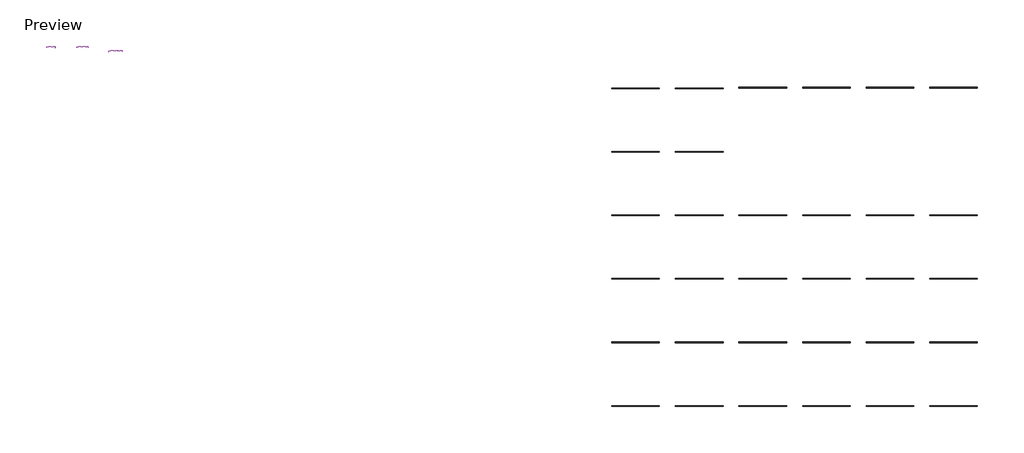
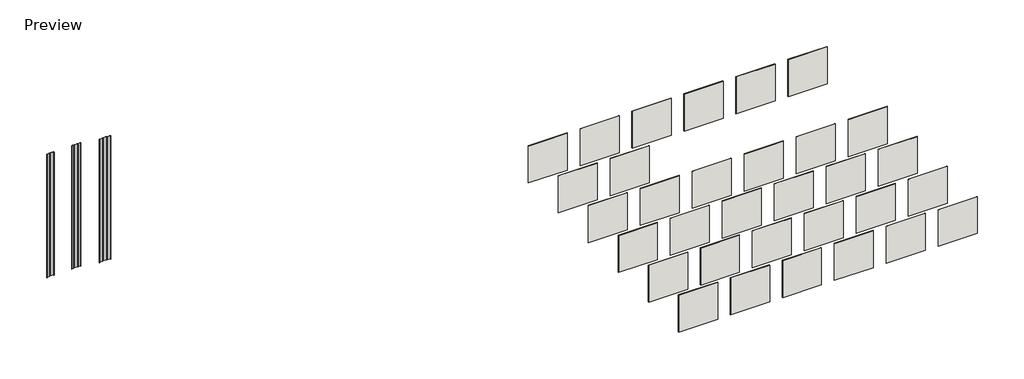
# One storey: 32 walls, 3 proxies.
"""IFC4 building model written with IfcOpenShell, lengths in millimetres."""

from ifc_helpers import new_model, si_unit, frame, origin, origin_with_axes, place, context, project, spatial, polyline, outline, extrude, transform, mapped, element, save
from components import field_lok_flm125_flm125_7b849c24, field_lok_flm165_flm165_75423626, field_lok_flm207_flm207_3ad78b5f

model = new_model("IFC4")

# Units and contexts
model_context = context("Model", 3, world=origin())
ifc_project = project(units=[si_unit("LENGTHUNIT", "METRE", prefix="MILLI")], contexts=[model_context])

# Site, building, storey
site = spatial("IfcSite", under=ifc_project)
building = spatial("IfcBuilding", under=site)
storey = spatial("IfcBuildingStorey", under=building, Name="Preview", Elevation=0.0)

# Proxies
placement = place(None, origin())
field_lok_flm125_flm125_shape = field_lok_flm125_flm125_7b849c24(model_context)
element("IfcBuildingElementProxy", 1, Name="Field Lok FLM125 : FLM125", ObjectType="Field Lok FLM125 : FLM125", at=placement, inside=storey, context=model_context, shape_type="MappedRepresentation", body=[
    mapped(field_lok_flm125_flm125_shape, transform((-42009.9924987, 19903.0873646, 5270.216913), x_axis=(0.0, 0.0, 1.0), y_axis=(-1.0, 0.0, 0.0), z_axis=(0.0, -1.0, 0.0))),
])
field_lok_flm165_flm165_shape = field_lok_flm165_flm165_75423626(model_context)
element("IfcBuildingElementProxy", 2, Name="Field Lok FLM165 : FLM165", ObjectType="Field Lok FLM165 : FLM165", at=placement, inside=storey, context=model_context, shape_type="MappedRepresentation", body=[
    mapped(field_lok_flm165_flm165_shape, transform((-40762.8993635, 19903.0873646, 5083.7483272), x_axis=(0.0, 0.0, 1.0), y_axis=(-1.0, 0.0, 0.0), z_axis=(0.0, -1.0, 0.0))),
])
field_lok_flm207_flm207_shape = field_lok_flm207_flm207_3ad78b5f(model_context)
element("IfcBuildingElementProxy", 3, Name="Field Lok FLM207 : FLM207", ObjectType="Field Lok FLM207 : FLM207", at=placement, inside=storey, context=model_context, shape_type="MappedRepresentation", body=[
    mapped(field_lok_flm207_flm207_shape, transform((-39430.3124938, 19744.2251808, 5083.7483272), x_axis=(0.0, 0.0, 1.0), y_axis=(-1.0, 0.0, 0.0), z_axis=(0.0, -1.0, 0.0))),
])

# Walls
element("IfcWall", 4, ObjectType="ATAS_Ascot White", at=placement, inside=storey, context=model_context, shape_type="SweptSolid", body=[
    extrude(outline(polyline([(-18839.3718391, 8535.7201131), (-20668.1718391, 8535.7201131), (-20668.1718391, 8559.5326131), (-18839.3718391, 8559.5326131), (-18839.3718391, 8535.7201131)])), origin_with_axes(), (0.0, 0.0, 1.0), 1828.8),
])
element("IfcWall", 5, ObjectType="ATAS_Classic Bronze", at=placement, inside=storey, context=model_context, shape_type="SweptSolid", body=[
    extrude(outline(polyline([(-16400.9718391, 8535.7201131), (-18229.7718391, 8535.7201131), (-18229.7718391, 8559.5326131), (-16400.9718391, 8559.5326131), (-16400.9718391, 8535.7201131)])), origin_with_axes(), (0.0, 0.0, 1.0), 1828.8),
])
element("IfcWall", 6, ObjectType="ATAS_Teal", at=placement, inside=storey, context=model_context, shape_type="SweptSolid", body=[
    extrude(outline(polyline([(-13962.5718391, 8535.7201131), (-15791.3718391, 8535.7201131), (-15791.3718391, 8559.5326131), (-13962.5718391, 8559.5326131), (-13962.5718391, 8535.7201131)])), origin_with_axes(), (0.0, 0.0, 1.0), 1828.8),
])
element("IfcWall", 7, ObjectType="ATAS_Boysenberry", at=placement, inside=storey, context=model_context, shape_type="SweptSolid", body=[
    extrude(outline(polyline([(-11524.1718391, 8535.7201131), (-13352.9718391, 8535.7201131), (-13352.9718391, 8559.5326131), (-11524.1718391, 8559.5326131), (-11524.1718391, 8535.7201131)])), origin_with_axes(), (0.0, 0.0, 1.0), 1828.8),
])
element("IfcWall", 8, ObjectType="ATAS_Rawhide", at=placement, inside=storey, context=model_context, shape_type="SweptSolid", body=[
    extrude(outline(polyline([(-9085.7718391, 8535.7201131), (-10914.5718391, 8535.7201131), (-10914.5718391, 8559.5326131), (-9085.7718391, 8559.5326131), (-9085.7718391, 8535.7201131)])), origin_with_axes(), (0.0, 0.0, 1.0), 1828.8),
])
element("IfcWall", 9, ObjectType="ATAS_Regal Blue", at=placement, inside=storey, context=model_context, shape_type="SweptSolid", body=[
    extrude(outline(polyline([(-6647.3718391, 8535.7201131), (-8476.1718391, 8535.7201131), (-8476.1718391, 8559.5326131), (-6647.3718391, 8559.5326131), (-6647.3718391, 8535.7201131)])), origin_with_axes(), (0.0, 0.0, 1.0), 1828.8),
])
element("IfcWall", 10, ObjectType="ATAS_Black", at=placement, inside=storey, context=model_context, shape_type="SweptSolid", body=[
    extrude(outline(polyline([(-18839.3718391, 6097.3201131), (-20668.1718391, 6097.3201131), (-20668.1718391, 6121.1326131), (-18839.3718391, 6121.1326131), (-18839.3718391, 6097.3201131)])), origin_with_axes(), (0.0, 0.0, 1.0), 1828.8),
])
element("IfcWall", 11, ObjectType="ATAS_Forest Green", at=placement, inside=storey, context=model_context, shape_type="SweptSolid", body=[
    extrude(outline(polyline([(-16400.9718391, 6097.3201131), (-18229.7718391, 6097.3201131), (-18229.7718391, 6121.1326131), (-16400.9718391, 6121.1326131), (-16400.9718391, 6097.3201131)])), origin_with_axes(), (0.0, 0.0, 1.0), 1828.8),
])
element("IfcWall", 12, ObjectType="ATAS_Chocolate Brown", at=placement, inside=storey, context=model_context, shape_type="SweptSolid", body=[
    extrude(outline(polyline([(-13962.5718391, 6097.3201131), (-15791.3718391, 6097.3201131), (-15791.3718391, 6121.1326131), (-13962.5718391, 6121.1326131), (-13962.5718391, 6097.3201131)])), origin_with_axes(), (0.0, 0.0, 1.0), 1828.8),
])
element("IfcWall", 13, ObjectType="ATAS_Sierra Tan", at=placement, inside=storey, context=model_context, shape_type="SweptSolid", body=[
    extrude(outline(polyline([(-11524.1718391, 6097.3201131), (-13352.9718391, 6097.3201131), (-13352.9718391, 6121.1326131), (-11524.1718391, 6121.1326131), (-11524.1718391, 6097.3201131)])), origin_with_axes(), (0.0, 0.0, 1.0), 1828.8),
])
element("IfcWall", 14, ObjectType="ATAS_Sandstone", at=placement, inside=storey, context=model_context, shape_type="SweptSolid", body=[
    extrude(outline(polyline([(-9085.7718391, 6097.3201131), (-10914.5718391, 6097.3201131), (-10914.5718391, 6121.1326131), (-9085.7718391, 6121.1326131), (-9085.7718391, 6097.3201131)])), origin_with_axes(), (0.0, 0.0, 1.0), 1828.8),
])
element("IfcWall", 15, ObjectType="ATAS_Rocky Grey", at=placement, inside=storey, context=model_context, shape_type="SweptSolid", body=[
    extrude(outline(polyline([(-6647.3718391, 6097.3201131), (-8476.1718391, 6097.3201131), (-8476.1718391, 6121.1326131), (-6647.3718391, 6121.1326131), (-6647.3718391, 6097.3201131)])), origin_with_axes(), (0.0, 0.0, 1.0), 1793.6354952),
])
element("IfcWall", 16, ObjectType="ATAS_Charcoal Grey", at=placement, inside=storey, context=model_context, shape_type="SweptSolid", body=[
    extrude(outline(polyline([(-18839.3718391, 10974.1201131), (-20668.1718391, 10974.1201131), (-20668.1718391, 10997.9326131), (-18839.3718391, 10997.9326131), (-18839.3718391, 10974.1201131)])), origin_with_axes(), (0.0, 0.0, 1.0), 1828.8),
])
element("IfcWall", 17, ObjectType="ATAS_Bone White", at=placement, inside=storey, context=model_context, shape_type="SweptSolid", body=[
    extrude(outline(polyline([(-16400.9718391, 10974.1201131), (-18229.7718391, 10974.1201131), (-18229.7718391, 10997.9326131), (-16400.9718391, 10997.9326131), (-16400.9718391, 10974.1201131)])), origin_with_axes(), (0.0, 0.0, 1.0), 1828.8),
])
element("IfcWall", 18, ObjectType="ATAS_Medium Bronze", at=placement, inside=storey, context=model_context, shape_type="SweptSolid", body=[
    extrude(outline(polyline([(-13962.5718391, 10974.1201131), (-15791.3718391, 10974.1201131), (-15791.3718391, 10997.9326131), (-13962.5718391, 10997.9326131), (-13962.5718391, 10974.1201131)])), origin_with_axes(), (0.0, 0.0, 1.0), 1828.8),
])
element("IfcWall", 19, ObjectType="ATAS_Hemlock Green", at=placement, inside=storey, context=model_context, shape_type="SweptSolid", body=[
    extrude(outline(polyline([(-11524.1718391, 10974.1201131), (-13352.9718391, 10974.1201131), (-13352.9718391, 10997.9326131), (-11524.1718391, 10997.9326131), (-11524.1718391, 10974.1201131)])), origin_with_axes(), (0.0, 0.0, 1.0), 1828.8),
])
element("IfcWall", 20, ObjectType="ATAS_Redwood", at=placement, inside=storey, context=model_context, shape_type="SweptSolid", body=[
    extrude(outline(polyline([(-9085.7718391, 10974.1201131), (-10914.5718391, 10974.1201131), (-10914.5718391, 10997.9326131), (-9085.7718391, 10997.9326131), (-9085.7718391, 10974.1201131)])), origin_with_axes(), (0.0, 0.0, 1.0), 1828.8),
])
element("IfcWall", 21, ObjectType="ATAS_Concord Cream", at=placement, inside=storey, context=model_context, shape_type="SweptSolid", body=[
    extrude(outline(polyline([(-6647.3718391, 10974.1201131), (-8476.1718391, 10974.1201131), (-8476.1718391, 10997.9326131), (-6647.3718391, 10997.9326131), (-6647.3718391, 10974.1201131)])), origin_with_axes(), (0.0, 0.0, 1.0), 1828.8),
])
element("IfcWall", 22, ObjectType="ATAS_Slate Blue", at=placement, inside=storey, context=model_context, shape_type="SweptSolid", body=[
    extrude(outline(polyline([(-18839.3718391, 13412.5201131), (-20668.1718391, 13412.5201131), (-20668.1718391, 13436.3326131), (-18839.3718391, 13436.3326131), (-18839.3718391, 13412.5201131)])), origin_with_axes(), (0.0, 0.0, 1.0), 1828.8),
])
element("IfcWall", 23, ObjectType="ATAS_Slate Grey", at=placement, inside=storey, context=model_context, shape_type="SweptSolid", body=[
    extrude(outline(polyline([(-16400.9718391, 13412.5201131), (-18229.7718391, 13412.5201131), (-18229.7718391, 13436.3326131), (-16400.9718391, 13436.3326131), (-16400.9718391, 13412.5201131)])), origin_with_axes(), (0.0, 0.0, 1.0), 1828.8),
])
element("IfcWall", 24, ObjectType="ATAS_Hatford Green", at=placement, inside=storey, context=model_context, shape_type="SweptSolid", body=[
    extrude(outline(polyline([(-13962.5718391, 13412.5201131), (-15791.3718391, 13412.5201131), (-15791.3718391, 13436.3326131), (-13962.5718391, 13436.3326131), (-13962.5718391, 13412.5201131)])), origin_with_axes(), (0.0, 0.0, 1.0), 1828.8),
])
element("IfcWall", 25, ObjectType="ATAS_Patina Green", at=placement, inside=storey, context=model_context, shape_type="SweptSolid", body=[
    extrude(outline(polyline([(-11524.1718391, 13412.5201131), (-13352.9718391, 13412.5201131), (-13352.9718391, 13436.3326131), (-11524.1718391, 13436.3326131), (-11524.1718391, 13412.5201131)])), frame((0.0, 0.0, -5.2424975), z_axis=(0.0, 0.0, 1.0), x_axis=(1.0, 0.0, 0.0)), (0.0, 0.0, 1.0), 1834.0424975),
])
element("IfcWall", 26, ObjectType="ATAS_Mission Red", at=placement, inside=storey, context=model_context, shape_type="SweptSolid", body=[
    extrude(outline(polyline([(-9085.7718391, 13412.5201131), (-10914.5718391, 13412.5201131), (-10914.5718391, 13436.3326131), (-9085.7718391, 13436.3326131), (-9085.7718391, 13412.5201131)])), origin_with_axes(), (0.0, 0.0, 1.0), 1828.8),
])
element("IfcWall", 27, ObjectType="ATAS_Almond", at=placement, inside=storey, context=model_context, shape_type="SweptSolid", body=[
    extrude(outline(polyline([(-6647.3718391, 13412.5201131), (-8476.1718391, 13412.5201131), (-8476.1718391, 13436.3326131), (-6647.3718391, 13436.3326131), (-6647.3718391, 13412.5201131)])), origin_with_axes(), (0.0, 0.0, 1.0), 1828.8),
])
element("IfcWall", 28, ObjectType="ATAS_Siam Blue", at=placement, inside=storey, context=model_context, shape_type="SweptSolid", body=[
    extrude(outline(polyline([(-18839.3718391, 15850.9201131), (-20668.1718391, 15850.9201131), (-20668.1718391, 15874.7326131), (-18839.3718391, 15874.7326131), (-18839.3718391, 15850.9201131)])), origin_with_axes(), (0.0, 0.0, 1.0), 1828.8),
])
element("IfcWall", 29, ObjectType="ATAS_Dove Grey", at=placement, inside=storey, context=model_context, shape_type="SweptSolid", body=[
    extrude(outline(polyline([(-16400.9718391, 15850.9201131), (-18229.7718391, 15850.9201131), (-18229.7718391, 15874.7326131), (-16400.9718391, 15874.7326131), (-16400.9718391, 15850.9201131)])), origin_with_axes(), (0.0, 0.0, 1.0), 1828.8),
])
element("IfcWall", 30, ObjectType="ATAS_Antique Patina", at=placement, inside=storey, context=model_context, shape_type="SweptSolid", body=[
    extrude(outline(polyline([(-13962.5718391, 18313.1326131), (-15791.3718391, 18313.1326131), (-15791.3718391, 18336.9451131), (-13962.5718391, 18336.9451131), (-13962.5718391, 18313.1326131)])), origin_with_axes(), (0.0, 0.0, 1.0), 1828.8),
])
element("IfcWall", 31, ObjectType="ATAS_Champagne", at=placement, inside=storey, context=model_context, shape_type="SweptSolid", body=[
    extrude(outline(polyline([(-11524.1718391, 18313.1326131), (-13352.9718391, 18313.1326131), (-13352.9718391, 18336.9451131), (-11524.1718391, 18336.9451131), (-11524.1718391, 18313.1326131)])), origin_with_axes(), (0.0, 0.0, 1.0), 1828.8),
])
element("IfcWall", 32, ObjectType="ATAS_Coppertone", at=placement, inside=storey, context=model_context, shape_type="SweptSolid", body=[
    extrude(outline(polyline([(-9085.7718391, 18313.1326131), (-10914.5718391, 18313.1326131), (-10914.5718391, 18336.9451131), (-9085.7718391, 18336.9451131), (-9085.7718391, 18313.1326131)])), origin_with_axes(), (0.0, 0.0, 1.0), 1828.8),
])
element("IfcWall", 33, ObjectType="ATAS_Silversmith", at=placement, inside=storey, context=model_context, shape_type="SweptSolid", body=[
    extrude(outline(polyline([(-18839.3718391, 18289.3201131), (-20668.1718391, 18289.3201131), (-20668.1718391, 18313.1326131), (-18839.3718391, 18313.1326131), (-18839.3718391, 18289.3201131)])), origin_with_axes(), (0.0, 0.0, 1.0), 1828.8),
])
element("IfcWall", 34, ObjectType="ATAS_Brite Red", at=placement, inside=storey, context=model_context, shape_type="SweptSolid", body=[
    extrude(outline(polyline([(-16400.9718391, 18289.3201131), (-18229.7718391, 18289.3201131), (-18229.7718391, 18313.1326131), (-16400.9718391, 18313.1326131), (-16400.9718391, 18289.3201131)])), origin_with_axes(), (0.0, 0.0, 1.0), 1828.8),
])
element("IfcWall", 35, ObjectType="ATAS_Titanium", at=placement, inside=storey, context=model_context, shape_type="SweptSolid", body=[
    extrude(outline(polyline([(-6647.3718391, 18313.1326131), (-8476.1718391, 18313.1326131), (-8476.1718391, 18336.9451131), (-6647.3718391, 18336.9451131), (-6647.3718391, 18313.1326131)])), origin_with_axes(), (0.0, 0.0, 1.0), 1828.8),
])

save(model, "model.ifc")
